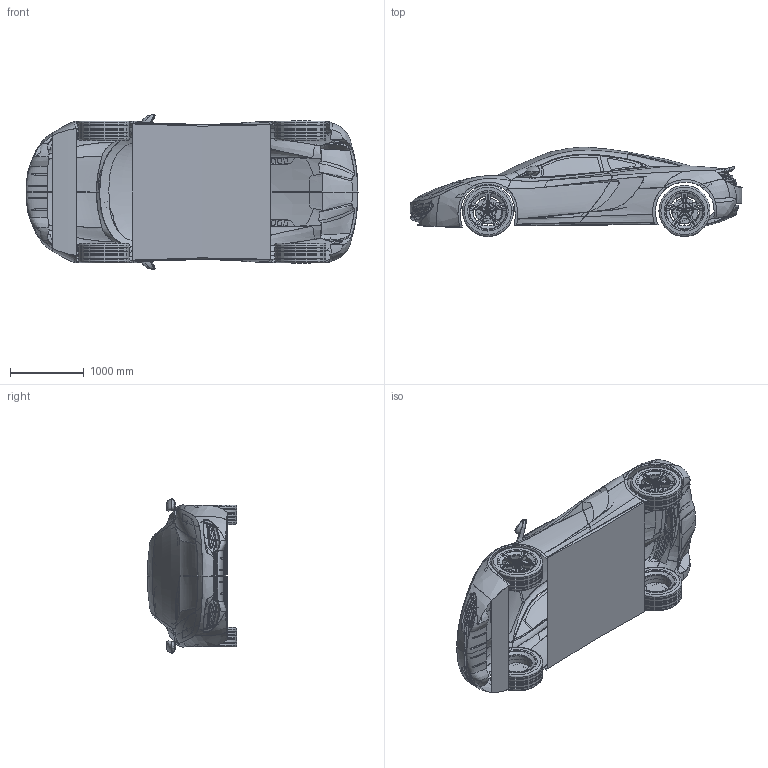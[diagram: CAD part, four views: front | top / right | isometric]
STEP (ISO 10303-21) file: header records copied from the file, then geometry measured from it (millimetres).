
FILE_DESCRIPTION (( 'STEP AP214' ), '1' );
FILE_NAME ('McLaren MP4.STEP', '2015-08-07T09:25:35', ( '' ), ( '' ), 'SwSTEP 2.0', 'SolidWorks 2014', '' );
FILE_SCHEMA (( 'AUTOMOTIVE_DESIGN' ));
Length unit declared in the file: millimetre
Products named in the file (1): McLaren MP4
Bounding box: 4493.76 x 1205.1 x 2090.35 mm (x, y, z)
Surface area: 36381574.7 mm2 (no closed solid volume)
Topology: 0 solids, 548 shells, 1736 faces, 5838 edges, 4582 vertices
Faces by surface type: bspline 996, cylinder 384, plane 252, torus 56, cone 48
Entity records: 248773 total; most frequent: CARTESIAN_POINT 196058, ORIENTED_EDGE 7941, EDGE_CURVE 5748, DIRECTION 5285, VERTEX_POINT 4582, B_SPLINE_CURVE_WITH_KNOTS 3065, EDGE_LOOP 1979, AXIS2_PLACEMENT_3D 1865
